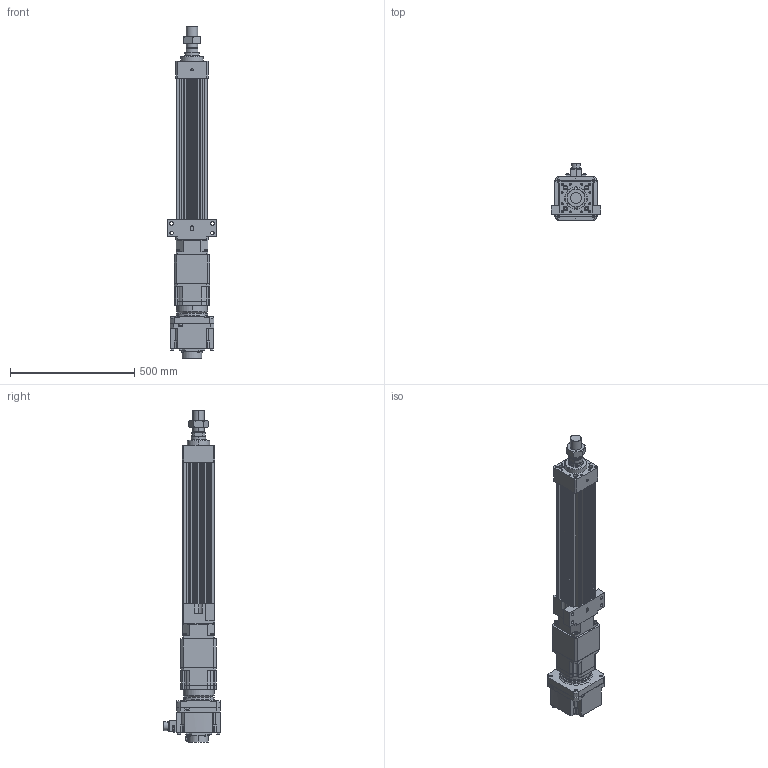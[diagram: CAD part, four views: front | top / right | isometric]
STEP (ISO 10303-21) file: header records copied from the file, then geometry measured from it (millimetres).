
FILE_DESCRIPTION (( 'STEP AP203' ), '1' );
FILE_NAME ('HES130FS(HS)-S350-W020G00-M-FFC.STEP', '2023-01-31T03:11:02', ( 'tms' ), ( '' ), 'SwSTEP 2.0', 'SolidWorks 2013', '' );
FILE_SCHEMA (( 'CONFIG_CONTROL_DESIGN' ));
Length unit declared in the file: millimetre
Products named in the file (9): P1301500001; HES130FS(HS)-S350-W020G00-M-FFC; HES130-S350-G142-FFC; AB1421; M45X1.5P; AB142-003[HG-SR352]; HG-SR202; P0403500801; HES130 ROD M ST350
Assembly tree (8 placements, depth 3):
  HES130FS(HS)-S350-W020G00-M-FFC
    HES130-S350-G142-FFC
    HES130 ROD M ST350
    M45X1.5P
    AB142-003[HG-SR352]
      AB1421
      P1301500001
      P0403500801
    HG-SR202
Bounding box: 200 x 228.85 x 1337.5 mm (x, y, z)
Volume: 11898683.3 mm3; surface area: 1519497.2 mm2
Topology: 4 solids, 22 shells, 1546 faces, 3982 edges, 2565 vertices
Faces by surface type: cylinder 694, plane 586, cone 184, bspline 76, torus 6
Entity records: 55838 total; most frequent: CARTESIAN_POINT 16862, DIRECTION 8160, ORIENTED_EDGE 7822, EDGE_CURVE 3933, AXIS2_PLACEMENT_3D 3080, VERTEX_POINT 2565, VECTOR 2000, LINE 2000
